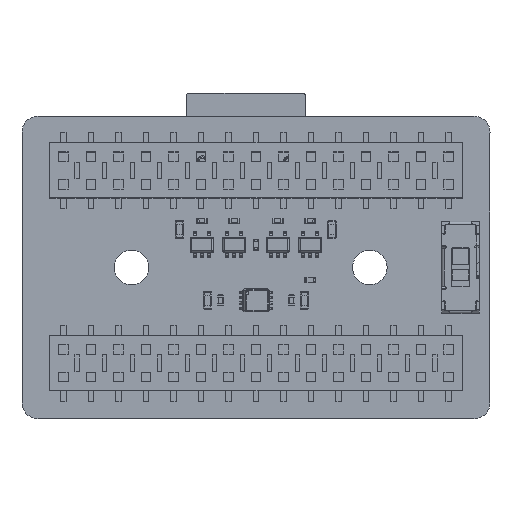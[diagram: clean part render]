
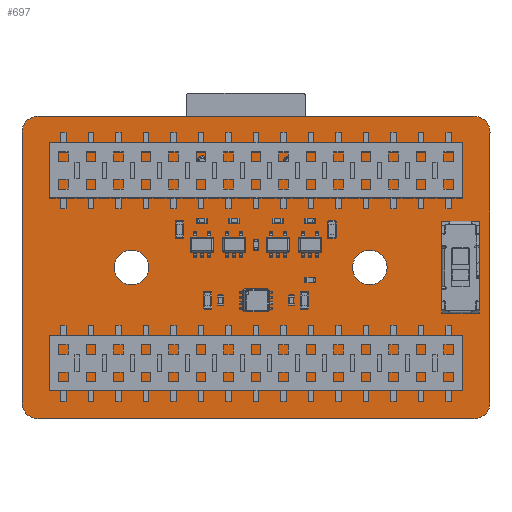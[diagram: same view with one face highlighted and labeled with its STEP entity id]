
A CAD part, top view. The second image highlights one B-rep face of the part: STEP entity #697.
In plain terms, the highlighted planar face has unit normal (0, 0, 1).
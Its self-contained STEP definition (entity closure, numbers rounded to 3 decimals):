
#156 = VERTEX_POINT('',#157);
#157 = CARTESIAN_POINT('',(0.,1.484,1.687)
  );
#163 = EDGE_CURVE('',#156,#164,#166,.T.);
#164 = VERTEX_POINT('',#165);
#165 = CARTESIAN_POINT('',(1.5,0.,1.687)
  );
#166 = CIRCLE('',#167,1.5);
#167 = AXIS2_PLACEMENT_3D('',#168,#169,#170);
#168 = CARTESIAN_POINT('',(1.5,1.5,1.687));
#169 = DIRECTION('',(0.,0.,1.));
#170 = DIRECTION('',(1.,0.,-0.));
#198 = VERTEX_POINT('',#199);
#199 = CARTESIAN_POINT('',(41.68,0.,1.687)
  );
#205 = EDGE_CURVE('',#198,#164,#206,.T.);
#206 = LINE('',#207,#208);
#207 = CARTESIAN_POINT('',(41.68,0.,1.687));
#208 = VECTOR('',#209,1.);
#209 = DIRECTION('',(-1.,0.,0.));
#227 = EDGE_CURVE('',#198,#228,#230,.T.);
#228 = VERTEX_POINT('',#229);
#229 = CARTESIAN_POINT('',(43.18,1.5,1.687));
#230 = CIRCLE('',#231,1.5);
#231 = AXIS2_PLACEMENT_3D('',#232,#233,#234);
#232 = CARTESIAN_POINT('',(41.68,1.5,1.687));
#233 = DIRECTION('',(0.,0.,1.));
#234 = DIRECTION('',(1.,0.,-0.));
#262 = VERTEX_POINT('',#263);
#263 = CARTESIAN_POINT('',(43.18,12.02,1.687));
#269 = EDGE_CURVE('',#262,#228,#270,.T.);
#270 = LINE('',#271,#272);
#271 = CARTESIAN_POINT('',(43.18,26.44,1.687));
#272 = VECTOR('',#273,1.);
#273 = DIRECTION('',(0.,-1.,0.));
#293 = VERTEX_POINT('',#294);
#294 = CARTESIAN_POINT('',(43.18,16.02,1.687));
#300 = EDGE_CURVE('',#293,#262,#301,.T.);
#301 = LINE('',#302,#303);
#302 = CARTESIAN_POINT('',(43.18,26.44,1.687));
#303 = VECTOR('',#304,1.);
#304 = DIRECTION('',(0.,-1.,0.));
#324 = VERTEX_POINT('',#325);
#325 = CARTESIAN_POINT('',(43.18,26.44,1.687));
#331 = EDGE_CURVE('',#324,#293,#332,.T.);
#332 = LINE('',#333,#334);
#333 = CARTESIAN_POINT('',(43.18,26.44,1.687));
#334 = VECTOR('',#335,1.);
#335 = DIRECTION('',(0.,-1.,0.));
#355 = VERTEX_POINT('',#356);
#356 = CARTESIAN_POINT('',(41.69,27.94,1.687));
#362 = EDGE_CURVE('',#355,#324,#363,.T.);
#363 = CIRCLE('',#364,1.499);
#364 = AXIS2_PLACEMENT_3D('',#365,#366,#367);
#365 = CARTESIAN_POINT('',(41.681,26.441,1.687));
#366 = DIRECTION('',(0.,0.,-1.));
#367 = DIRECTION('',(-0.001,1.,0.));
#388 = VERTEX_POINT('',#389);
#389 = CARTESIAN_POINT('',(41.68,27.94,1.687));
#395 = EDGE_CURVE('',#388,#355,#396,.T.);
#396 = CIRCLE('',#397,1.499);
#397 = AXIS2_PLACEMENT_3D('',#398,#399,#400);
#398 = CARTESIAN_POINT('',(41.681,26.441,1.687));
#399 = DIRECTION('',(0.,0.,-1.));
#400 = DIRECTION('',(-0.001,1.,0.));
#421 = VERTEX_POINT('',#422);
#422 = CARTESIAN_POINT('',(1.499,27.94,1.687));
#428 = EDGE_CURVE('',#421,#388,#429,.T.);
#429 = LINE('',#430,#431);
#430 = CARTESIAN_POINT('',(1.5,27.94,1.687));
#431 = VECTOR('',#432,1.);
#432 = DIRECTION('',(1.,0.,0.));
#452 = VERTEX_POINT('',#453);
#453 = CARTESIAN_POINT('',(0.,26.44,1.687));
#459 = EDGE_CURVE('',#452,#421,#460,.T.);
#460 = CIRCLE('',#461,1.501);
#461 = AXIS2_PLACEMENT_3D('',#462,#463,#464);
#462 = CARTESIAN_POINT('',(1.501,26.439,1.687));
#463 = DIRECTION('',(0.,0.,-1.));
#464 = DIRECTION('',(-1.,0.,0.));
#485 = VERTEX_POINT('',#486);
#486 = CARTESIAN_POINT('',(0.,1.5,1.687));
#492 = EDGE_CURVE('',#485,#452,#493,.T.);
#493 = LINE('',#494,#495);
#494 = CARTESIAN_POINT('',(0.,1.5,1.687));
#495 = VECTOR('',#496,1.);
#496 = DIRECTION('',(0.,1.,0.));
#514 = EDGE_CURVE('',#156,#485,#515,.T.);
#515 = CIRCLE('',#516,1.499);
#516 = AXIS2_PLACEMENT_3D('',#517,#518,#519);
#517 = CARTESIAN_POINT('',(1.499,1.499,1.687));
#518 = DIRECTION('',(0.,0.,-1.));
#519 = DIRECTION('',(0.001,-1.,0.));
#540 = VERTEX_POINT('',#541);
#541 = CARTESIAN_POINT('',(33.69,13.97,1.687));
#547 = EDGE_CURVE('',#540,#540,#548,.T.);
#548 = CIRCLE('',#549,1.6);
#549 = AXIS2_PLACEMENT_3D('',#550,#551,#552);
#550 = CARTESIAN_POINT('',(32.09,13.97,1.687));
#551 = DIRECTION('',(0.,0.,1.));
#552 = DIRECTION('',(1.,0.,-0.));
#573 = VERTEX_POINT('',#574);
#574 = CARTESIAN_POINT('',(11.69,13.97,1.687));
#580 = EDGE_CURVE('',#573,#573,#581,.T.);
#581 = CIRCLE('',#582,1.6);
#582 = AXIS2_PLACEMENT_3D('',#583,#584,#585);
#583 = CARTESIAN_POINT('',(10.09,13.97,1.687));
#584 = DIRECTION('',(0.,0.,1.));
#585 = DIRECTION('',(1.,0.,-0.));
#606 = VERTEX_POINT('',#607);
#607 = CARTESIAN_POINT('',(25.14,23.77,1.687));
#613 = EDGE_CURVE('',#606,#606,#614,.T.);
#614 = CIRCLE('',#615,0.5);
#615 = AXIS2_PLACEMENT_3D('',#616,#617,#618);
#616 = CARTESIAN_POINT('',(24.64,23.77,1.687));
#617 = DIRECTION('',(0.,0.,1.));
#618 = DIRECTION('',(1.,0.,-0.));
#639 = VERTEX_POINT('',#640);
#640 = CARTESIAN_POINT('',(17.14,23.77,1.687));
#646 = EDGE_CURVE('',#639,#639,#647,.T.);
#647 = CIRCLE('',#648,0.5);
#648 = AXIS2_PLACEMENT_3D('',#649,#650,#651);
#649 = CARTESIAN_POINT('',(16.64,23.77,1.687));
#650 = DIRECTION('',(0.,0.,1.));
#651 = DIRECTION('',(1.,0.,-0.));
#697 = ADVANCED_FACE('',(#698,#712,#715,#718,#721),#724,.F.);
#698 = FACE_BOUND('',#699,.F.);
#699 = EDGE_LOOP('',(#700,#701,#702,#703,#704,#705,#706,#707,#708,#709,
    #710,#711));
#700 = ORIENTED_EDGE('',*,*,#163,.F.);
#701 = ORIENTED_EDGE('',*,*,#514,.T.);
#702 = ORIENTED_EDGE('',*,*,#492,.T.);
#703 = ORIENTED_EDGE('',*,*,#459,.T.);
#704 = ORIENTED_EDGE('',*,*,#428,.T.);
#705 = ORIENTED_EDGE('',*,*,#395,.T.);
#706 = ORIENTED_EDGE('',*,*,#362,.T.);
#707 = ORIENTED_EDGE('',*,*,#331,.T.);
#708 = ORIENTED_EDGE('',*,*,#300,.T.);
#709 = ORIENTED_EDGE('',*,*,#269,.T.);
#710 = ORIENTED_EDGE('',*,*,#227,.F.);
#711 = ORIENTED_EDGE('',*,*,#205,.T.);
#712 = FACE_BOUND('',#713,.F.);
#713 = EDGE_LOOP('',(#714));
#714 = ORIENTED_EDGE('',*,*,#547,.T.);
#715 = FACE_BOUND('',#716,.F.);
#716 = EDGE_LOOP('',(#717));
#717 = ORIENTED_EDGE('',*,*,#580,.T.);
#718 = FACE_BOUND('',#719,.F.);
#719 = EDGE_LOOP('',(#720));
#720 = ORIENTED_EDGE('',*,*,#613,.T.);
#721 = FACE_BOUND('',#722,.F.);
#722 = EDGE_LOOP('',(#723));
#723 = ORIENTED_EDGE('',*,*,#646,.T.);
#724 = PLANE('',#725);
#725 = AXIS2_PLACEMENT_3D('',#726,#727,#728);
#726 = CARTESIAN_POINT('',(21.59,13.97,1.687));
#727 = DIRECTION('',(-0.,-0.,-1.));
#728 = DIRECTION('',(-1.,0.,0.));
